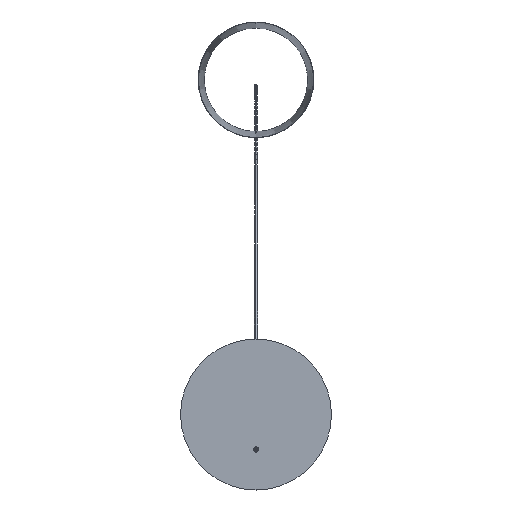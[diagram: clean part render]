
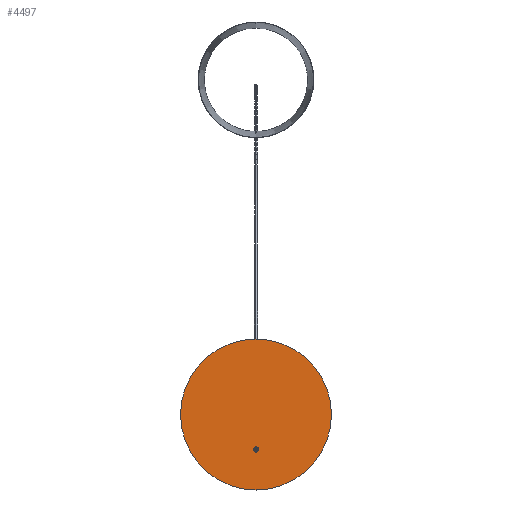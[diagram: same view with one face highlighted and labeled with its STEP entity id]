
A CAD part, front view. The second image highlights one B-rep face of the part: STEP entity #4497.
In plain terms, the highlighted planar face has unit normal (0, -1, 0).
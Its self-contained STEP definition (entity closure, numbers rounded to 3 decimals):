
#173 = AXIS2_PLACEMENT_3D ( 'NONE', #3961, #9608, #7224 ) ;
#283 = CIRCLE ( 'NONE', #8996, 300. ) ;
#346 = AXIS2_PLACEMENT_3D ( 'NONE', #385, #6040, #9226 ) ;
#385 = CARTESIAN_POINT ( 'NONE',  ( -142.858, 29.2, -84.454 ) ) ;
#485 = CARTESIAN_POINT ( 'NONE',  ( -142.858, 29.2, -74.454 ) ) ;
#674 = CIRCLE ( 'NONE', #8197, 300. ) ;
#763 = EDGE_LOOP ( 'NONE', ( #7471, #1992, #4790, #4352 ) ) ;
#808 = DIRECTION ( 'NONE',  ( 0., 1., 0. ) ) ;
#851 = CIRCLE ( 'NONE', #346, 9.25 ) ;
#904 = FACE_BOUND ( 'NONE', #763, .T. ) ;
#1190 = VERTEX_POINT ( 'NONE', #2811 ) ;
#1446 = CARTESIAN_POINT ( 'NONE',  ( -142.858, 29.2, 55.546 ) ) ;
#1470 = DIRECTION ( 'NONE',  ( 0., 1., 0. ) ) ;
#1558 = CARTESIAN_POINT ( 'NONE',  ( -142.858, 29.2, 55.546 ) ) ;
#1780 = CARTESIAN_POINT ( 'NONE',  ( -141.186, 29.2, -75.356 ) ) ;
#1794 = CARTESIAN_POINT ( 'NONE',  ( -142.858, 29.2, 55.546 ) ) ;
#1822 = EDGE_CURVE ( 'NONE', #6430, #5363, #9394, .T. ) ;
#1992 = ORIENTED_EDGE ( 'NONE', *, *, #5018, .T. ) ;
#2145 = VERTEX_POINT ( 'NONE', #8006 ) ;
#2183 = AXIS2_PLACEMENT_3D ( 'NONE', #10445, #1470, #4902 ) ;
#2811 = CARTESIAN_POINT ( 'NONE',  ( -142.858, 29.2, -244.454 ) ) ;
#3271 = DIRECTION ( 'NONE',  ( 0., 0., 1. ) ) ;
#3417 = FACE_OUTER_BOUND ( 'NONE', #4099, .T. ) ;
#3510 = DIRECTION ( 'NONE',  ( 0., 0., 1. ) ) ;
#3961 = CARTESIAN_POINT ( 'NONE',  ( -142.858, 29.2, -76.454 ) ) ;
#4099 = EDGE_LOOP ( 'NONE', ( #9563, #6756 ) ) ;
#4332 = CARTESIAN_POINT ( 'NONE',  ( -142.858, 29.2, -84.454 ) ) ;
#4352 = ORIENTED_EDGE ( 'NONE', *, *, #4702, .T. ) ;
#4374 = EDGE_CURVE ( 'NONE', #1190, #2145, #674, .T. ) ;
#4497 = ADVANCED_FACE ( 'NONE', ( #904, #3417 ), #7544, .F. ) ;
#4702 = EDGE_CURVE ( 'NONE', #5363, #8001, #9411, .T. ) ;
#4790 = ORIENTED_EDGE ( 'NONE', *, *, #1822, .T. ) ;
#4902 = DIRECTION ( 'NONE',  ( 0., 0., 1. ) ) ;
#5018 = EDGE_CURVE ( 'NONE', #6884, #6430, #8542, .T. ) ;
#5121 = DIRECTION ( 'NONE',  ( 0., 1., 0. ) ) ;
#5363 = VERTEX_POINT ( 'NONE', #485 ) ;
#5411 = DIRECTION ( 'NONE',  ( 0., 1., 0. ) ) ;
#5545 = EDGE_CURVE ( 'NONE', #8001, #6884, #851, .T. ) ;
#6040 = DIRECTION ( 'NONE',  ( 0., 1., 0. ) ) ;
#6198 = CARTESIAN_POINT ( 'NONE',  ( -144.53, 29.2, -75.356 ) ) ;
#6303 = CARTESIAN_POINT ( 'NONE',  ( -142.858, 29.2, -93.704 ) ) ;
#6427 = DIRECTION ( 'NONE',  ( 0., 0., 1. ) ) ;
#6430 = VERTEX_POINT ( 'NONE', #6198 ) ;
#6734 = DIRECTION ( 'NONE',  ( 0., 0., 1. ) ) ;
#6756 = ORIENTED_EDGE ( 'NONE', *, *, #9939, .F. ) ;
#6884 = VERTEX_POINT ( 'NONE', #6303 ) ;
#7224 = DIRECTION ( 'NONE',  ( 0., 0., 1. ) ) ;
#7471 = ORIENTED_EDGE ( 'NONE', *, *, #5545, .T. ) ;
#7515 = AXIS2_PLACEMENT_3D ( 'NONE', #1446, #808, #3271 ) ;
#7544 = PLANE ( 'NONE',  #7515 ) ;
#7606 = DIRECTION ( 'NONE',  ( 0., 1., 0. ) ) ;
#8001 = VERTEX_POINT ( 'NONE', #1780 ) ;
#8006 = CARTESIAN_POINT ( 'NONE',  ( -142.858, 29.2, 355.546 ) ) ;
#8197 = AXIS2_PLACEMENT_3D ( 'NONE', #1558, #5411, #6427 ) ;
#8542 = CIRCLE ( 'NONE', #9585, 9.25 ) ;
#8996 = AXIS2_PLACEMENT_3D ( 'NONE', #1794, #5121, #3510 ) ;
#9226 = DIRECTION ( 'NONE',  ( 0., 0., 1. ) ) ;
#9394 = CIRCLE ( 'NONE', #2183, 2. ) ;
#9411 = CIRCLE ( 'NONE', #173, 2. ) ;
#9563 = ORIENTED_EDGE ( 'NONE', *, *, #4374, .F. ) ;
#9585 = AXIS2_PLACEMENT_3D ( 'NONE', #4332, #7606, #6734 ) ;
#9608 = DIRECTION ( 'NONE',  ( 0., 1., 0. ) ) ;
#9939 = EDGE_CURVE ( 'NONE', #2145, #1190, #283, .T. ) ;
#10445 = CARTESIAN_POINT ( 'NONE',  ( -142.858, 29.2, -76.454 ) ) ;
